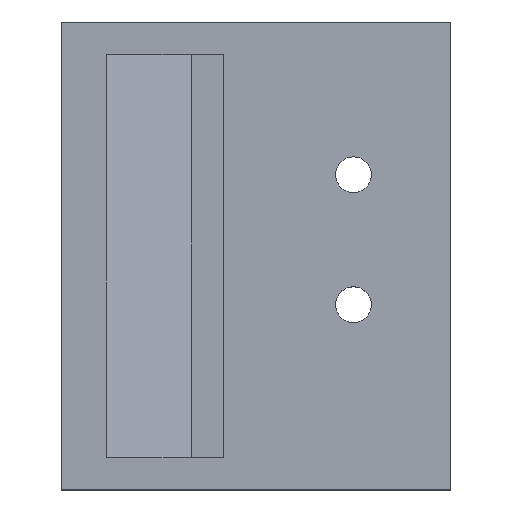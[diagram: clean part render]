
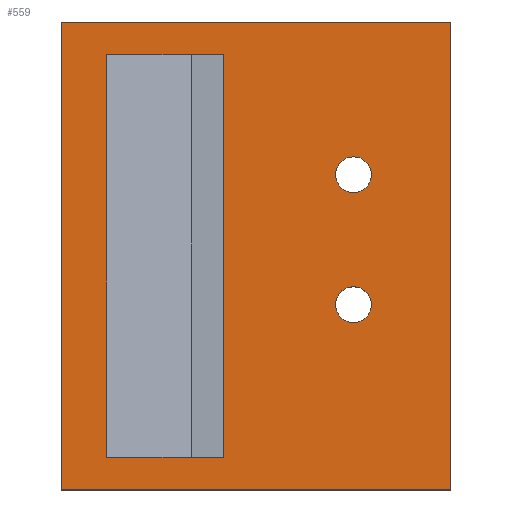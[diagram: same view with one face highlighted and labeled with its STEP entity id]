
A CAD part, top view. The second image highlights one B-rep face of the part: STEP entity #559.
In plain terms, the highlighted planar face has unit normal (0, 0, 1).
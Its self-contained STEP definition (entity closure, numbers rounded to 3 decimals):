
#2 = LINE ( 'NONE', #270, #251 ) ;
#16 = CARTESIAN_POINT ( 'NONE',  ( -17.75, -7.5, 0. ) ) ;
#22 = CARTESIAN_POINT ( 'NONE',  ( -53., 31., 0. ) ) ;
#23 = CARTESIAN_POINT ( 'NONE',  ( -35., -31., 0. ) ) ;
#25 = DIRECTION ( 'NONE',  ( 0., 0., 1. ) ) ;
#27 = ORIENTED_EDGE ( 'NONE', *, *, #215, .T. ) ;
#29 = CARTESIAN_POINT ( 'NONE',  ( -60., -36., 0. ) ) ;
#30 = VERTEX_POINT ( 'NONE', #605 ) ;
#35 = CARTESIAN_POINT ( 'NONE',  ( -12.25, -7.5, 0. ) ) ;
#56 = CARTESIAN_POINT ( 'NONE',  ( 0., 36., 0. ) ) ;
#63 = VERTEX_POINT ( 'NONE', #256 ) ;
#82 = DIRECTION ( 'NONE',  ( 0., 0., -1. ) ) ;
#85 = LINE ( 'NONE', #576, #186 ) ;
#92 = LINE ( 'NONE', #223, #496 ) ;
#96 = FACE_BOUND ( 'NONE', #635, .T. ) ;
#109 = DIRECTION ( 'NONE',  ( 1., 0., 0. ) ) ;
#114 = ORIENTED_EDGE ( 'NONE', *, *, #309, .T. ) ;
#121 = ORIENTED_EDGE ( 'NONE', *, *, #592, .T. ) ;
#122 = DIRECTION ( 'NONE',  ( 0., -1., 0. ) ) ;
#129 = DIRECTION ( 'NONE',  ( -1., 0., 0. ) ) ;
#138 = CARTESIAN_POINT ( 'NONE',  ( -12.25, 12.5, 0. ) ) ;
#145 = EDGE_LOOP ( 'NONE', ( #445, #297 ) ) ;
#150 = VECTOR ( 'NONE', #171, 1000. ) ;
#152 = CIRCLE ( 'NONE', #517, 2.75 ) ;
#158 = VERTEX_POINT ( 'NONE', #22 ) ;
#163 = VECTOR ( 'NONE', #434, 1000. ) ;
#171 = DIRECTION ( 'NONE',  ( 0., 1., 0. ) ) ;
#173 = DIRECTION ( 'NONE',  ( 1., 0., 0. ) ) ;
#174 = CARTESIAN_POINT ( 'NONE',  ( -35., 31., 0. ) ) ;
#178 = EDGE_CURVE ( 'NONE', #463, #430, #92, .T. ) ;
#179 = DIRECTION ( 'NONE',  ( -1., 0., 0. ) ) ;
#182 = CARTESIAN_POINT ( 'NONE',  ( -15., -7.5, 0. ) ) ;
#186 = VECTOR ( 'NONE', #122, 1000. ) ;
#210 = CIRCLE ( 'NONE', #652, 2.75 ) ;
#215 = EDGE_CURVE ( 'NONE', #641, #284, #152, .T. ) ;
#220 = LINE ( 'NONE', #221, #598 ) ;
#221 = CARTESIAN_POINT ( 'NONE',  ( 0., 36., 0. ) ) ;
#222 = VERTEX_POINT ( 'NONE', #334 ) ;
#223 = CARTESIAN_POINT ( 'NONE',  ( -53., -31., 0. ) ) ;
#239 = EDGE_CURVE ( 'NONE', #158, #463, #511, .T. ) ;
#240 = AXIS2_PLACEMENT_3D ( 'NONE', #263, #320, #564 ) ;
#251 = VECTOR ( 'NONE', #326, 1000. ) ;
#256 = CARTESIAN_POINT ( 'NONE',  ( -60., -36., 0. ) ) ;
#257 = ORIENTED_EDGE ( 'NONE', *, *, #345, .F. ) ;
#263 = CARTESIAN_POINT ( 'NONE',  ( -15., -7.5, 0. ) ) ;
#270 = CARTESIAN_POINT ( 'NONE',  ( 0., -36., 0. ) ) ;
#276 = CARTESIAN_POINT ( 'NONE',  ( -35., 31., 0. ) ) ;
#284 = VERTEX_POINT ( 'NONE', #138 ) ;
#286 = DIRECTION ( 'NONE',  ( 0., -1., 0. ) ) ;
#288 = ORIENTED_EDGE ( 'NONE', *, *, #178, .F. ) ;
#294 = CIRCLE ( 'NONE', #240, 2.75 ) ;
#296 = EDGE_CURVE ( 'NONE', #561, #402, #210, .T. ) ;
#297 = ORIENTED_EDGE ( 'NONE', *, *, #413, .T. ) ;
#304 = VECTOR ( 'NONE', #636, 1000. ) ;
#309 = EDGE_CURVE ( 'NONE', #284, #641, #596, .T. ) ;
#315 = ORIENTED_EDGE ( 'NONE', *, *, #239, .F. ) ;
#320 = DIRECTION ( 'NONE',  ( 0., 0., -1. ) ) ;
#323 = ORIENTED_EDGE ( 'NONE', *, *, #394, .T. ) ;
#326 = DIRECTION ( 'NONE',  ( 0., 1., 0. ) ) ;
#334 = CARTESIAN_POINT ( 'NONE',  ( -60., 36., 0. ) ) ;
#344 = EDGE_CURVE ( 'NONE', #222, #63, #85, .T. ) ;
#345 = EDGE_CURVE ( 'NONE', #414, #158, #461, .T. ) ;
#354 = EDGE_CURVE ( 'NONE', #430, #414, #427, .T. ) ;
#355 = FACE_BOUND ( 'NONE', #486, .T. ) ;
#383 = CARTESIAN_POINT ( 'NONE',  ( -15., 12.5, 0. ) ) ;
#393 = ORIENTED_EDGE ( 'NONE', *, *, #354, .F. ) ;
#394 = EDGE_CURVE ( 'NONE', #63, #30, #451, .T. ) ;
#402 = VERTEX_POINT ( 'NONE', #35 ) ;
#404 = EDGE_LOOP ( 'NONE', ( #519, #323, #608, #121 ) ) ;
#413 = EDGE_CURVE ( 'NONE', #402, #561, #294, .T. ) ;
#414 = VERTEX_POINT ( 'NONE', #276 ) ;
#426 = PLANE ( 'NONE',  #611 ) ;
#427 = LINE ( 'NONE', #23, #150 ) ;
#430 = VERTEX_POINT ( 'NONE', #606 ) ;
#434 = DIRECTION ( 'NONE',  ( -1., 0., 0. ) ) ;
#444 = DIRECTION ( 'NONE',  ( -1., 0., 0. ) ) ;
#445 = ORIENTED_EDGE ( 'NONE', *, *, #296, .T. ) ;
#451 = LINE ( 'NONE', #29, #304 ) ;
#461 = LINE ( 'NONE', #174, #163 ) ;
#463 = VERTEX_POINT ( 'NONE', #524 ) ;
#486 = EDGE_LOOP ( 'NONE', ( #27, #114 ) ) ;
#488 = EDGE_CURVE ( 'NONE', #30, #643, #2, .T. ) ;
#489 = DIRECTION ( 'NONE',  ( 0., 0., -1. ) ) ;
#496 = VECTOR ( 'NONE', #173, 1000. ) ;
#498 = FACE_BOUND ( 'NONE', #145, .T. ) ;
#505 = CARTESIAN_POINT ( 'NONE',  ( -17.75, 12.5, 0. ) ) ;
#511 = LINE ( 'NONE', #535, #633 ) ;
#517 = AXIS2_PLACEMENT_3D ( 'NONE', #383, #82, #444 ) ;
#519 = ORIENTED_EDGE ( 'NONE', *, *, #344, .T. ) ;
#524 = CARTESIAN_POINT ( 'NONE',  ( -53., -31., 0. ) ) ;
#531 = AXIS2_PLACEMENT_3D ( 'NONE', #578, #532, #179 ) ;
#532 = DIRECTION ( 'NONE',  ( 0., 0., -1. ) ) ;
#535 = CARTESIAN_POINT ( 'NONE',  ( -53., 31., 0. ) ) ;
#559 = ADVANCED_FACE ( 'NONE', ( #355, #498, #96, #620 ), #426, .T. ) ;
#561 = VERTEX_POINT ( 'NONE', #16 ) ;
#564 = DIRECTION ( 'NONE',  ( -1., 0., 0. ) ) ;
#574 = CARTESIAN_POINT ( 'NONE',  ( 0., 0., 0. ) ) ;
#576 = CARTESIAN_POINT ( 'NONE',  ( -60., 36., 0. ) ) ;
#578 = CARTESIAN_POINT ( 'NONE',  ( -15., 12.5, 0. ) ) ;
#592 = EDGE_CURVE ( 'NONE', #643, #222, #220, .T. ) ;
#596 = CIRCLE ( 'NONE', #531, 2.75 ) ;
#598 = VECTOR ( 'NONE', #615, 1000. ) ;
#605 = CARTESIAN_POINT ( 'NONE',  ( 0., -36., 0. ) ) ;
#606 = CARTESIAN_POINT ( 'NONE',  ( -35., -31., 0. ) ) ;
#608 = ORIENTED_EDGE ( 'NONE', *, *, #488, .T. ) ;
#611 = AXIS2_PLACEMENT_3D ( 'NONE', #574, #25, #109 ) ;
#615 = DIRECTION ( 'NONE',  ( -1., 0., 0. ) ) ;
#620 = FACE_OUTER_BOUND ( 'NONE', #404, .T. ) ;
#633 = VECTOR ( 'NONE', #286, 1000. ) ;
#635 = EDGE_LOOP ( 'NONE', ( #393, #288, #315, #257 ) ) ;
#636 = DIRECTION ( 'NONE',  ( 1., 0., 0. ) ) ;
#641 = VERTEX_POINT ( 'NONE', #505 ) ;
#643 = VERTEX_POINT ( 'NONE', #56 ) ;
#652 = AXIS2_PLACEMENT_3D ( 'NONE', #182, #489, #129 ) ;
